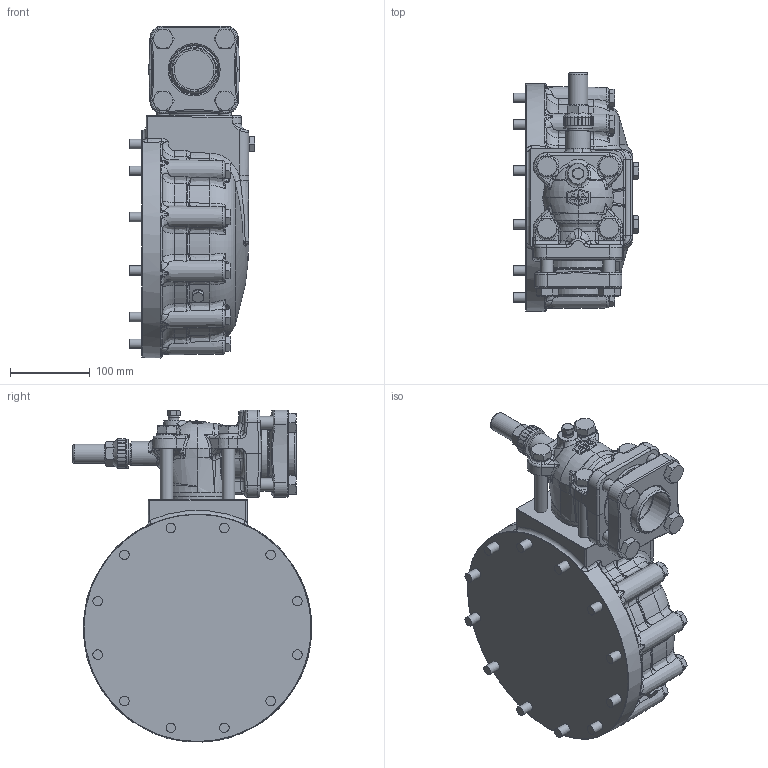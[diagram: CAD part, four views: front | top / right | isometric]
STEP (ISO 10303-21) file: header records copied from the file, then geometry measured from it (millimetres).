
FILE_DESCRIPTION(/* description */ (''),/* implementation_level */ '2;1');
FILE_NAME(/* name */ '4GE20-23.stp',/* time_stamp */ '2023-10-23T14:32:32+02:00',/* author */ (''),/* organization */ (''),/* preprocessor_version */ 'ST-DEVELOPER v19.3',/* originating_system */ 'SIEMENS PLM Software NX2212.3001',/* authorisation */ '');
FILE_SCHEMA (('AUTOMOTIVE_DESIGN { 1 0 10303 214 3 1 1 1 }'));
Products named in the file (3): HOUSING-COVER-4G-6G-DN50-SHORT; SHUT-OFF-VALVE-D54L-DN50; 4GE20-23
Assembly tree (2 placements, depth 2):
  4GE20-23
    SHUT-OFF-VALVE-D54L-DN50
    HOUSING-COVER-4G-6G-DN50-SHORT
Bounding box: 157.5 x 300.32 x 417.44 mm (x, y, z)
Volume: 8776778.6 mm3; surface area: 436499.1 mm2
Topology: 2 solids, 3 shells, 2514 faces, 6254 edges, 3765 vertices
Faces by surface type: bspline 758, plane 731, extrusion 305, cylinder 236, cone 225, torus 202, sphere 57
Full cylindrical faces by diameter (mm): 12 x12, 13.7 x1, 13.716 x1, 14 x4, 16 x8, 17 x4, 17.4 x12, 24 x1, 27 x1, 36 x1, 50 x1, 54.2 x1, 60 x4, 61 x2, 62.5 x1, 75 x2, 76 x2, 286 x1
Entity records: 116476 total; most frequent: CARTESIAN_POINT 54991, ORIENTED_EDGE 11842, DIRECTION 8120, EDGE_CURVE 5921, VERTEX_POINT 3690, AXIS2_PLACEMENT_3D 3007, B_SPLINE_CURVE_WITH_KNOTS 2867, EDGE_LOOP 2801
